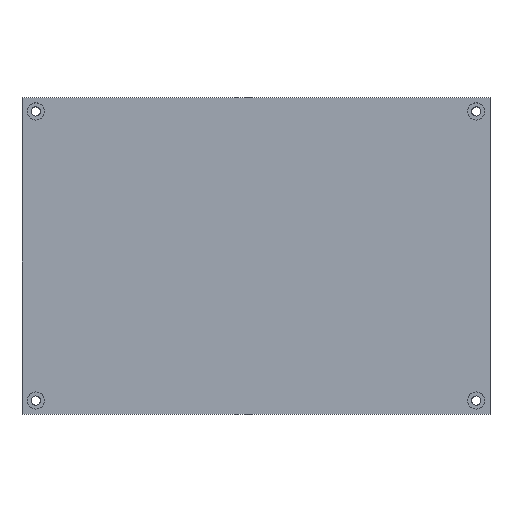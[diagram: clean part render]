
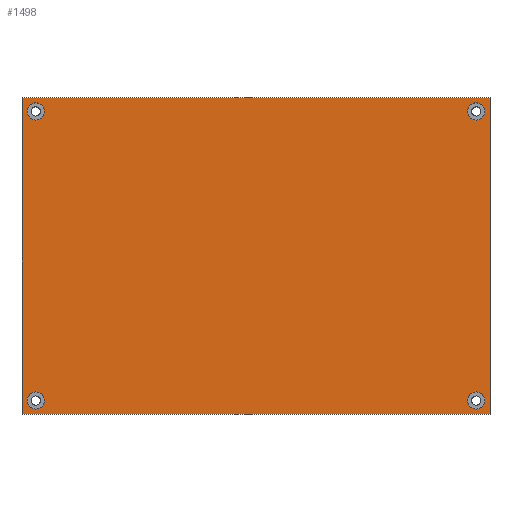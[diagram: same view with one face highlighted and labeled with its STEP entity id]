
A CAD part, top view. The second image highlights one B-rep face of the part: STEP entity #1498.
In plain terms, the highlighted planar face has unit normal (0, 0, 1).
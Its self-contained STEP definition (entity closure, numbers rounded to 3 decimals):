
#10 = VERTEX_POINT ( 'NONE', #30 ) ;
#14 = EDGE_CURVE ( 'NONE', #245, #10, #809, .T. ) ;
#21 = ORIENTED_EDGE ( 'NONE', *, *, #1805, .F. ) ;
#23 = VERTEX_POINT ( 'NONE', #231 ) ;
#30 = CARTESIAN_POINT ( 'NONE',  ( 85., -57.5, 4. ) ) ;
#121 = EDGE_CURVE ( 'NONE', #2362, #1321, #1702, .T. ) ;
#152 = FACE_BOUND ( 'NONE', #639, .T. ) ;
#181 = VERTEX_POINT ( 'NONE', #2023 ) ;
#182 = CARTESIAN_POINT ( 'NONE',  ( 76.875, -52.5, 4. ) ) ;
#196 = EDGE_CURVE ( 'NONE', #1321, #2362, #1425, .T. ) ;
#199 = DIRECTION ( 'NONE',  ( 0., 0., 1. ) ) ;
#231 = CARTESIAN_POINT ( 'NONE',  ( -85., 57.5, 4. ) ) ;
#245 = VERTEX_POINT ( 'NONE', #1773 ) ;
#246 = VERTEX_POINT ( 'NONE', #954 ) ;
#278 = ORIENTED_EDGE ( 'NONE', *, *, #1257, .T. ) ;
#376 = EDGE_CURVE ( 'NONE', #549, #1596, #1783, .T. ) ;
#381 = CARTESIAN_POINT ( 'NONE',  ( 80., 52.5, 4. ) ) ;
#388 = EDGE_CURVE ( 'NONE', #10, #246, #847, .T. ) ;
#407 = AXIS2_PLACEMENT_3D ( 'NONE', #1316, #2497, #730 ) ;
#409 = ORIENTED_EDGE ( 'NONE', *, *, #2243, .F. ) ;
#495 = CIRCLE ( 'NONE', #1927, 3.125 ) ;
#504 = CARTESIAN_POINT ( 'NONE',  ( -80., -52.5, 4. ) ) ;
#515 = AXIS2_PLACEMENT_3D ( 'NONE', #1844, #675, #2051 ) ;
#537 = ORIENTED_EDGE ( 'NONE', *, *, #196, .F. ) ;
#544 = FACE_BOUND ( 'NONE', #1574, .T. ) ;
#549 = VERTEX_POINT ( 'NONE', #1311 ) ;
#553 = VECTOR ( 'NONE', #2234, 1000. ) ;
#632 = DIRECTION ( 'NONE',  ( -1., 0., 0. ) ) ;
#639 = EDGE_LOOP ( 'NONE', ( #21, #409 ) ) ;
#652 = AXIS2_PLACEMENT_3D ( 'NONE', #381, #2514, #1164 ) ;
#654 = LINE ( 'NONE', #1444, #830 ) ;
#657 = CARTESIAN_POINT ( 'NONE',  ( -83.125, 52.5, 4. ) ) ;
#663 = DIRECTION ( 'NONE',  ( 0., 0., 1. ) ) ;
#675 = DIRECTION ( 'NONE',  ( 0., 0., 1. ) ) ;
#693 = CIRCLE ( 'NONE', #652, 3.125 ) ;
#711 = CIRCLE ( 'NONE', #789, 3.125 ) ;
#730 = DIRECTION ( 'NONE',  ( 1., 0., 0. ) ) ;
#777 = CARTESIAN_POINT ( 'NONE',  ( 0., 0., 4. ) ) ;
#778 = EDGE_CURVE ( 'NONE', #246, #23, #1612, .T. ) ;
#789 = AXIS2_PLACEMENT_3D ( 'NONE', #504, #663, #1084 ) ;
#800 = VERTEX_POINT ( 'NONE', #657 ) ;
#809 = LINE ( 'NONE', #1592, #2029 ) ;
#830 = VECTOR ( 'NONE', #2215, 1000. ) ;
#833 = CARTESIAN_POINT ( 'NONE',  ( 83.125, 52.5, 4. ) ) ;
#847 = LINE ( 'NONE', #1461, #553 ) ;
#858 = ORIENTED_EDGE ( 'NONE', *, *, #2419, .F. ) ;
#859 = CARTESIAN_POINT ( 'NONE',  ( 85., 57.5, 4. ) ) ;
#886 = CARTESIAN_POINT ( 'NONE',  ( 83.125, -52.5, 4. ) ) ;
#954 = CARTESIAN_POINT ( 'NONE',  ( 85., 57.5, 4. ) ) ;
#1011 = ORIENTED_EDGE ( 'NONE', *, *, #14, .T. ) ;
#1025 = CARTESIAN_POINT ( 'NONE',  ( -80., 52.5, 4. ) ) ;
#1084 = DIRECTION ( 'NONE',  ( 1., 0., 0. ) ) ;
#1119 = AXIS2_PLACEMENT_3D ( 'NONE', #777, #199, #2520 ) ;
#1159 = PLANE ( 'NONE',  #1119 ) ;
#1164 = DIRECTION ( 'NONE',  ( 1., 0., 0. ) ) ;
#1186 = EDGE_CURVE ( 'NONE', #2161, #800, #495, .T. ) ;
#1206 = CARTESIAN_POINT ( 'NONE',  ( -76.875, 52.5, 4. ) ) ;
#1237 = EDGE_LOOP ( 'NONE', ( #858, #1700 ) ) ;
#1257 = EDGE_CURVE ( 'NONE', #23, #245, #654, .T. ) ;
#1309 = DIRECTION ( 'NONE',  ( 0., 0., 1. ) ) ;
#1311 = CARTESIAN_POINT ( 'NONE',  ( 76.875, 52.5, 4. ) ) ;
#1314 = EDGE_LOOP ( 'NONE', ( #537, #2217 ) ) ;
#1316 = CARTESIAN_POINT ( 'NONE',  ( -80., 52.5, 4. ) ) ;
#1321 = VERTEX_POINT ( 'NONE', #886 ) ;
#1334 = EDGE_LOOP ( 'NONE', ( #278, #1011, #2160, #2418 ) ) ;
#1338 = AXIS2_PLACEMENT_3D ( 'NONE', #1438, #2384, #1415 ) ;
#1415 = DIRECTION ( 'NONE',  ( 1., 0., 0. ) ) ;
#1425 = CIRCLE ( 'NONE', #515, 3.125 ) ;
#1430 = DIRECTION ( 'NONE',  ( 1., 0., 0. ) ) ;
#1433 = EDGE_CURVE ( 'NONE', #800, #2161, #2285, .T. ) ;
#1438 = CARTESIAN_POINT ( 'NONE',  ( 80., 52.5, 4. ) ) ;
#1444 = CARTESIAN_POINT ( 'NONE',  ( -85., -57.5, 4. ) ) ;
#1461 = CARTESIAN_POINT ( 'NONE',  ( 85., -57.5, 4. ) ) ;
#1498 = ADVANCED_FACE ( 'NONE', ( #1952, #2507, #544, #152, #1552 ), #1159, .T. ) ;
#1521 = CARTESIAN_POINT ( 'NONE',  ( -76.875, -52.5, 4. ) ) ;
#1552 = FACE_OUTER_BOUND ( 'NONE', #1334, .T. ) ;
#1574 = EDGE_LOOP ( 'NONE', ( #1638, #1808 ) ) ;
#1578 = DIRECTION ( 'NONE',  ( 1., 0., 0. ) ) ;
#1592 = CARTESIAN_POINT ( 'NONE',  ( 85., -57.5, 4. ) ) ;
#1596 = VERTEX_POINT ( 'NONE', #833 ) ;
#1612 = LINE ( 'NONE', #859, #1868 ) ;
#1621 = DIRECTION ( 'NONE',  ( 0., 0., 1. ) ) ;
#1635 = DIRECTION ( 'NONE',  ( 1., 0., 0. ) ) ;
#1638 = ORIENTED_EDGE ( 'NONE', *, *, #1186, .F. ) ;
#1700 = ORIENTED_EDGE ( 'NONE', *, *, #376, .F. ) ;
#1702 = CIRCLE ( 'NONE', #2186, 3.125 ) ;
#1773 = CARTESIAN_POINT ( 'NONE',  ( -85., -57.5, 4. ) ) ;
#1783 = CIRCLE ( 'NONE', #1338, 3.125 ) ;
#1805 = EDGE_CURVE ( 'NONE', #2336, #181, #711, .T. ) ;
#1808 = ORIENTED_EDGE ( 'NONE', *, *, #1433, .F. ) ;
#1825 = CARTESIAN_POINT ( 'NONE',  ( -80., -52.5, 4. ) ) ;
#1838 = DIRECTION ( 'NONE',  ( 1., 0., 0. ) ) ;
#1840 = CIRCLE ( 'NONE', #2287, 3.125 ) ;
#1844 = CARTESIAN_POINT ( 'NONE',  ( 80., -52.5, 4. ) ) ;
#1868 = VECTOR ( 'NONE', #632, 1000. ) ;
#1927 = AXIS2_PLACEMENT_3D ( 'NONE', #1025, #1621, #1578 ) ;
#1952 = FACE_BOUND ( 'NONE', #1314, .T. ) ;
#2023 = CARTESIAN_POINT ( 'NONE',  ( -83.125, -52.5, 4. ) ) ;
#2029 = VECTOR ( 'NONE', #1430, 1000. ) ;
#2037 = CARTESIAN_POINT ( 'NONE',  ( 80., -52.5, 4. ) ) ;
#2051 = DIRECTION ( 'NONE',  ( 1., 0., 0. ) ) ;
#2160 = ORIENTED_EDGE ( 'NONE', *, *, #388, .T. ) ;
#2161 = VERTEX_POINT ( 'NONE', #1206 ) ;
#2186 = AXIS2_PLACEMENT_3D ( 'NONE', #2037, #2445, #1635 ) ;
#2215 = DIRECTION ( 'NONE',  ( 0., -1., 0. ) ) ;
#2217 = ORIENTED_EDGE ( 'NONE', *, *, #121, .F. ) ;
#2234 = DIRECTION ( 'NONE',  ( 0., 1., 0. ) ) ;
#2243 = EDGE_CURVE ( 'NONE', #181, #2336, #1840, .T. ) ;
#2285 = CIRCLE ( 'NONE', #407, 3.125 ) ;
#2287 = AXIS2_PLACEMENT_3D ( 'NONE', #1825, #1309, #1838 ) ;
#2336 = VERTEX_POINT ( 'NONE', #1521 ) ;
#2362 = VERTEX_POINT ( 'NONE', #182 ) ;
#2384 = DIRECTION ( 'NONE',  ( 0., 0., 1. ) ) ;
#2418 = ORIENTED_EDGE ( 'NONE', *, *, #778, .T. ) ;
#2419 = EDGE_CURVE ( 'NONE', #1596, #549, #693, .T. ) ;
#2445 = DIRECTION ( 'NONE',  ( 0., 0., 1. ) ) ;
#2497 = DIRECTION ( 'NONE',  ( 0., 0., 1. ) ) ;
#2507 = FACE_BOUND ( 'NONE', #1237, .T. ) ;
#2514 = DIRECTION ( 'NONE',  ( 0., 0., 1. ) ) ;
#2520 = DIRECTION ( 'NONE',  ( 1., 0., 0. ) ) ;
